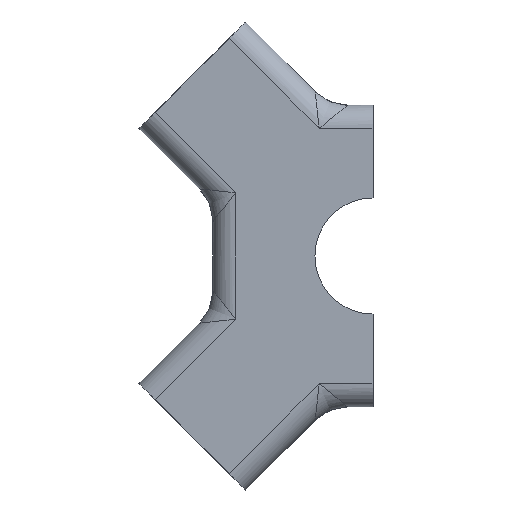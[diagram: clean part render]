
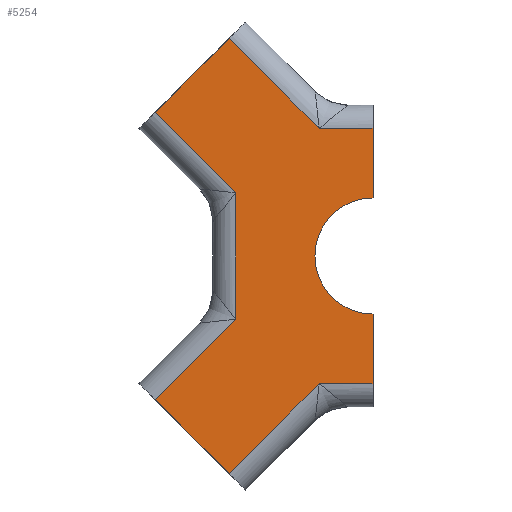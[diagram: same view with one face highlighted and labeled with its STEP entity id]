
A CAD part, left-side view. The second image highlights one B-rep face of the part: STEP entity #5254.
In plain terms, the highlighted planar face has unit normal (-1, 0, 0).
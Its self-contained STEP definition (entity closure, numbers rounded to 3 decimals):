
#58 = VERTEX_POINT ( 'NONE', #3456 ) ;
#64 = CARTESIAN_POINT ( 'NONE',  ( -266.7, 0., 0. ) ) ;
#122 = CARTESIAN_POINT ( 'NONE',  ( -266.7, 149.96, -69.134 ) ) ;
#141 = LINE ( 'NONE', #2493, #2533 ) ;
#574 = CARTESIAN_POINT ( 'NONE',  ( -266.7, 149.96, -58.613 ) ) ;
#727 = CARTESIAN_POINT ( 'NONE',  ( -266.7, 149.96, 69.134 ) ) ;
#792 = DIRECTION ( 'NONE',  ( 0., 0.707, 0.707 ) ) ;
#968 = LINE ( 'NONE', #5792, #10886 ) ;
#1013 = DIRECTION ( 'NONE',  ( 1., 0., 0. ) ) ;
#1149 = VERTEX_POINT ( 'NONE', #8980 ) ;
#1438 = VERTEX_POINT ( 'NONE', #1811 ) ;
#1662 = ORIENTED_EDGE ( 'NONE', *, *, #4403, .T. ) ;
#1711 = FACE_OUTER_BOUND ( 'NONE', #6932, .T. ) ;
#1811 = CARTESIAN_POINT ( 'NONE',  ( -266.7, 0., -63.5 ) ) ;
#1823 = VECTOR ( 'NONE', #9095, 1000. ) ;
#1871 = VECTOR ( 'NONE', #4931, 1000. ) ;
#1892 = VECTOR ( 'NONE', #9265, 1000. ) ;
#1993 = VECTOR ( 'NONE', #7927, 1000. ) ;
#2024 = CARTESIAN_POINT ( 'NONE',  ( -266.7, 0., 0. ) ) ;
#2051 = CARTESIAN_POINT ( 'NONE',  ( -266.7, 0., -139.7 ) ) ;
#2076 = ORIENTED_EDGE ( 'NONE', *, *, #2140, .T. ) ;
#2133 = VECTOR ( 'NONE', #9909, 1000. ) ;
#2140 = EDGE_CURVE ( 'NONE', #1438, #58, #3373, .T. ) ;
#2229 = ORIENTED_EDGE ( 'NONE', *, *, #9595, .T. ) ;
#2307 = CARTESIAN_POINT ( 'NONE',  ( -266.7, 40.413, -40.413 ) ) ;
#2329 = ORIENTED_EDGE ( 'NONE', *, *, #10291, .T. ) ;
#2367 = VERTEX_POINT ( 'NONE', #122 ) ;
#2493 = CARTESIAN_POINT ( 'NONE',  ( -266.7, -40.409, 40.409 ) ) ;
#2533 = VECTOR ( 'NONE', #792, 1000. ) ;
#2640 = VERTEX_POINT ( 'NONE', #8837 ) ;
#2705 = EDGE_CURVE ( 'NONE', #1149, #8647, #8011, .T. ) ;
#3348 = CARTESIAN_POINT ( 'NONE',  ( -266.7, 255.939, 139.192 ) ) ;
#3373 = CIRCLE ( 'NONE', #7112, 63.5 ) ;
#3456 = CARTESIAN_POINT ( 'NONE',  ( -266.7, 0., 63.5 ) ) ;
#3487 = EDGE_CURVE ( 'NONE', #1149, #2640, #3582, .T. ) ;
#3550 = EDGE_CURVE ( 'NONE', #10072, #10836, #9500, .T. ) ;
#3582 = LINE ( 'NONE', #3348, #1871 ) ;
#3799 = VECTOR ( 'NONE', #4309, 1000. ) ;
#3847 = CARTESIAN_POINT ( 'NONE',  ( -266.7, 237.978, -157.153 ) ) ;
#4246 = LINE ( 'NONE', #2051, #1993 ) ;
#4309 = DIRECTION ( 'NONE',  ( 0., 0., -1. ) ) ;
#4401 = LINE ( 'NONE', #10761, #5952 ) ;
#4403 = EDGE_CURVE ( 'NONE', #4840, #9932, #4246, .T. ) ;
#4484 = VECTOR ( 'NONE', #9476, 1000. ) ;
#4536 = CARTESIAN_POINT ( 'NONE',  ( -266.7, 0., 139.7 ) ) ;
#4567 = EDGE_CURVE ( 'NONE', #8647, #2367, #10285, .T. ) ;
#4578 = ORIENTED_EDGE ( 'NONE', *, *, #7559, .F. ) ;
#4840 = VERTEX_POINT ( 'NONE', #6889 ) ;
#4931 = DIRECTION ( 'NONE',  ( 0., -0.707, 0.707 ) ) ;
#4987 = LINE ( 'NONE', #10268, #3799 ) ;
#5095 = ORIENTED_EDGE ( 'NONE', *, *, #3550, .F. ) ;
#5254 = ADVANCED_FACE ( 'NONE', ( #1711 ), #7067, .F. ) ;
#5262 = DIRECTION ( 'NONE',  ( 1., 0., 0. ) ) ;
#5792 = CARTESIAN_POINT ( 'NONE',  ( -266.7, 0., -165.1 ) ) ;
#5952 = VECTOR ( 'NONE', #9789, 1000. ) ;
#5969 = EDGE_CURVE ( 'NONE', #9405, #58, #4987, .T. ) ;
#5970 = LINE ( 'NONE', #8481, #1892 ) ;
#5995 = ORIENTED_EDGE ( 'NONE', *, *, #5969, .F. ) ;
#6627 = ORIENTED_EDGE ( 'NONE', *, *, #8515, .T. ) ;
#6889 = CARTESIAN_POINT ( 'NONE',  ( -266.7, 58.881, -139.7 ) ) ;
#6932 = EDGE_LOOP ( 'NONE', ( #5995, #2329, #2229, #9345, #9887, #8469, #6627, #5095, #9200, #1662, #4578, #2076 ) ) ;
#6984 = CARTESIAN_POINT ( 'NONE',  ( -266.7, 0., 139.7 ) ) ;
#7067 = PLANE ( 'NONE',  #7459 ) ;
#7112 = AXIS2_PLACEMENT_3D ( 'NONE', #64, #1013, #8476 ) ;
#7459 = AXIS2_PLACEMENT_3D ( 'NONE', #2024, #5262, #7903 ) ;
#7559 = EDGE_CURVE ( 'NONE', #1438, #9932, #968, .T. ) ;
#7621 = EDGE_CURVE ( 'NONE', #10072, #4840, #5970, .T. ) ;
#7903 = DIRECTION ( 'NONE',  ( 0., 0., -1. ) ) ;
#7927 = DIRECTION ( 'NONE',  ( 0., -1., 0. ) ) ;
#8011 = LINE ( 'NONE', #2307, #1823 ) ;
#8307 = DIRECTION ( 'NONE',  ( 0., 0., -1. ) ) ;
#8401 = CARTESIAN_POINT ( 'NONE',  ( -266.7, 255.939, -139.192 ) ) ;
#8469 = ORIENTED_EDGE ( 'NONE', *, *, #4567, .T. ) ;
#8476 = DIRECTION ( 'NONE',  ( 0., 0., -1. ) ) ;
#8481 = CARTESIAN_POINT ( 'NONE',  ( -266.7, 66.321, -147.139 ) ) ;
#8515 = EDGE_CURVE ( 'NONE', #2367, #10836, #4401, .T. ) ;
#8647 = VERTEX_POINT ( 'NONE', #727 ) ;
#8837 = CARTESIAN_POINT ( 'NONE',  ( -266.7, 157.156, 237.975 ) ) ;
#8864 = CARTESIAN_POINT ( 'NONE',  ( -266.7, 0., -139.7 ) ) ;
#8980 = CARTESIAN_POINT ( 'NONE',  ( -266.7, 237.978, 157.153 ) ) ;
#9095 = DIRECTION ( 'NONE',  ( 0., -0.707, -0.707 ) ) ;
#9105 = CARTESIAN_POINT ( 'NONE',  ( -266.7, 58.881, 139.7 ) ) ;
#9199 = CARTESIAN_POINT ( 'NONE',  ( -266.7, 157.156, -237.975 ) ) ;
#9200 = ORIENTED_EDGE ( 'NONE', *, *, #7621, .T. ) ;
#9212 = LINE ( 'NONE', #6984, #4484 ) ;
#9265 = DIRECTION ( 'NONE',  ( 0., -0.707, 0.707 ) ) ;
#9345 = ORIENTED_EDGE ( 'NONE', *, *, #3487, .F. ) ;
#9405 = VERTEX_POINT ( 'NONE', #4536 ) ;
#9476 = DIRECTION ( 'NONE',  ( 0., 1., 0. ) ) ;
#9500 = LINE ( 'NONE', #8401, #9650 ) ;
#9521 = VERTEX_POINT ( 'NONE', #9105 ) ;
#9595 = EDGE_CURVE ( 'NONE', #9521, #2640, #141, .T. ) ;
#9650 = VECTOR ( 'NONE', #10019, 1000. ) ;
#9789 = DIRECTION ( 'NONE',  ( 0., 0.707, -0.707 ) ) ;
#9887 = ORIENTED_EDGE ( 'NONE', *, *, #2705, .T. ) ;
#9909 = DIRECTION ( 'NONE',  ( 0., 0., -1. ) ) ;
#9932 = VERTEX_POINT ( 'NONE', #8864 ) ;
#10019 = DIRECTION ( 'NONE',  ( 0., 0.707, 0.707 ) ) ;
#10072 = VERTEX_POINT ( 'NONE', #9199 ) ;
#10268 = CARTESIAN_POINT ( 'NONE',  ( -266.7, 0., 165.1 ) ) ;
#10285 = LINE ( 'NONE', #574, #2133 ) ;
#10291 = EDGE_CURVE ( 'NONE', #9405, #9521, #9212, .T. ) ;
#10761 = CARTESIAN_POINT ( 'NONE',  ( -266.7, 237.978, -157.153 ) ) ;
#10836 = VERTEX_POINT ( 'NONE', #3847 ) ;
#10886 = VECTOR ( 'NONE', #8307, 1000. ) ;
